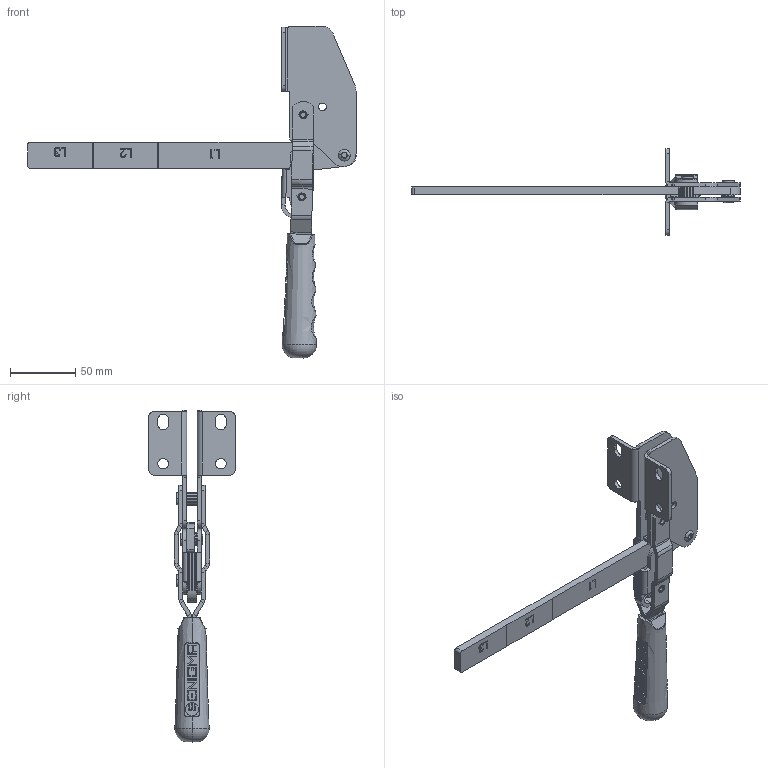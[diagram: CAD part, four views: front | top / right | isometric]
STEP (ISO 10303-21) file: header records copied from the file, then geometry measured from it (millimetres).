
FILE_DESCRIPTION (( 'STEP AP214' ), '1' );
FILE_NAME ('1104-A-L.STEP', '2022-09-01T11:42:55', ( '' ), ( '' ), 'SwSTEP 2.0', 'SolidWorks 2022', '' );
FILE_SCHEMA (( 'AUTOMOTIVE_DESIGN' ));
Length unit declared in the file: millimetre
Products named in the file (11): 6x23,5_PERÇİN_Varsayılan; 10x6x8_BURÇ_Varsayılan; L_BASKI_KOLU_1104; Aynalama1104_A_REV1_GÖVDE_Varsayılan; 1104 HAREKET KOLU_Varsayılan; 6x17,5_PERÇİN_Varsayılan; 1104_A_REV1_GÖVDE_Varsayılan; 1104-A-L; C95_Yeni_Tutamak_Varsayılan; 10x6x14_BURÇ_Varsayılan; 1104 MAFSAL_Varsayılan
Assembly tree (15 placements, depth 2):
  1104-A-L
    10x6x8_BURÇ_Varsayılan  x2
    10x6x14_BURÇ_Varsayılan  x2
    1104 MAFSAL_Varsayılan
    1104 HAREKET KOLU_Varsayılan  x2
    6x17,5_PERÇİN_Varsayılan  x2
    6x23,5_PERÇİN_Varsayılan  x2
    C95_Yeni_Tutamak_Varsayılan
    1104_A_REV1_GÖVDE_Varsayılan
    Aynalama1104_A_REV1_GÖVDE_Varsayılan
    L_BASKI_KOLU_1104
Bounding box: 252.17 x 66.29 x 254.68 mm (x, y, z)
Volume: 123823.2 mm3; surface area: 75873.6 mm2
Topology: 15 solids, 15 shells, 1017 faces, 2536 edges, 1614 vertices
Faces by surface type: plane 709, cylinder 208, torus 36, cone 34, bspline 28, sphere 2
Entity records: 23203 total; most frequent: CARTESIAN_POINT 5567, ORIENTED_EDGE 3554, DIRECTION 3502, EDGE_CURVE 1777, VECTOR 1248, LINE 1248, VERTEX_POINT 1140, AXIS2_PLACEMENT_3D 1127
